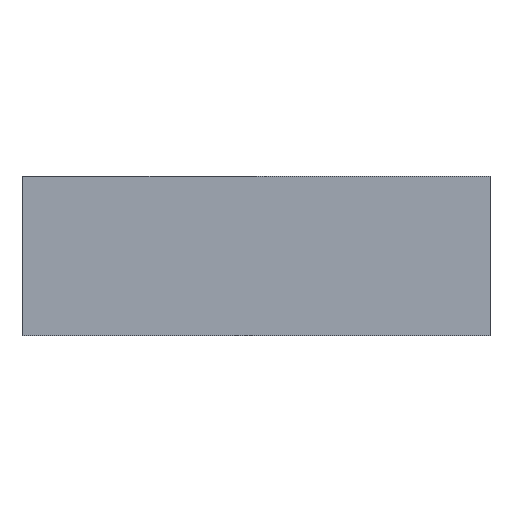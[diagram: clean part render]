
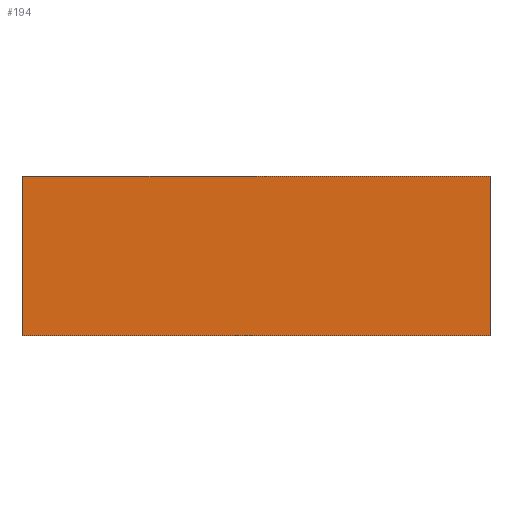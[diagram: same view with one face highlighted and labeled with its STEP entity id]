
A CAD part, front view. The second image highlights one B-rep face of the part: STEP entity #194.
In plain terms, the highlighted planar face has unit normal (0, -1, 0).
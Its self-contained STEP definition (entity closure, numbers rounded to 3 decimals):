
#1 = CARTESIAN_POINT ( 'NONE',  ( 176., 0., 120. ) ) ;
#8 = PLANE ( 'NONE',  #170 ) ;
#11 = VERTEX_POINT ( 'NONE', #79 ) ;
#21 = DIRECTION ( 'NONE',  ( 1., 0., 0. ) ) ;
#22 = CARTESIAN_POINT ( 'NONE',  ( -176., 0., 0. ) ) ;
#25 = DIRECTION ( 'NONE',  ( 0., 0., -1. ) ) ;
#26 = CARTESIAN_POINT ( 'NONE',  ( 176., 0., 120. ) ) ;
#52 = DIRECTION ( 'NONE',  ( 1., 0., 0. ) ) ;
#53 = CARTESIAN_POINT ( 'NONE',  ( -176., 0., 120. ) ) ;
#62 = DIRECTION ( 'NONE',  ( 0., 0., -1. ) ) ;
#65 = CARTESIAN_POINT ( 'NONE',  ( -176., 0., 120. ) ) ;
#70 = CARTESIAN_POINT ( 'NONE',  ( 176., 0., 0. ) ) ;
#75 = CARTESIAN_POINT ( 'NONE',  ( -176., 0., 120. ) ) ;
#79 = CARTESIAN_POINT ( 'NONE',  ( -176., 0., 0. ) ) ;
#82 = VERTEX_POINT ( 'NONE', #1 ) ;
#86 = VERTEX_POINT ( 'NONE', #75 ) ;
#103 = VERTEX_POINT ( 'NONE', #70 ) ;
#105 = CARTESIAN_POINT ( 'NONE',  ( -176., 0., 120. ) ) ;
#110 = DIRECTION ( 'NONE',  ( -1., 0., 0. ) ) ;
#120 = DIRECTION ( 'NONE',  ( 0., 1., 0. ) ) ;
#146 = EDGE_CURVE ( 'NONE', #86, #11, #223, .T. ) ;
#157 = EDGE_CURVE ( 'NONE', #86, #82, #249, .T. ) ;
#170 = AXIS2_PLACEMENT_3D ( 'NONE', #105, #120, #110 ) ;
#179 = EDGE_CURVE ( 'NONE', #82, #103, #336, .T. ) ;
#182 = EDGE_CURVE ( 'NONE', #11, #103, #272, .T. ) ;
#194 = ADVANCED_FACE ( 'NONE', ( #323 ), #8, .F. ) ;
#220 = ORIENTED_EDGE ( 'NONE', *, *, #157, .F. ) ;
#222 = EDGE_LOOP ( 'NONE', ( #231, #243, #220, #242 ) ) ;
#223 = LINE ( 'NONE', #65, #251 ) ;
#231 = ORIENTED_EDGE ( 'NONE', *, *, #182, .T. ) ;
#242 = ORIENTED_EDGE ( 'NONE', *, *, #146, .T. ) ;
#243 = ORIENTED_EDGE ( 'NONE', *, *, #179, .F. ) ;
#249 = LINE ( 'NONE', #53, #250 ) ;
#250 = VECTOR ( 'NONE', #52, 1000. ) ;
#251 = VECTOR ( 'NONE', #62, 1000. ) ;
#272 = LINE ( 'NONE', #22, #277 ) ;
#277 = VECTOR ( 'NONE', #21, 1000. ) ;
#315 = VECTOR ( 'NONE', #25, 1000. ) ;
#323 = FACE_OUTER_BOUND ( 'NONE', #222, .T. ) ;
#336 = LINE ( 'NONE', #26, #315 ) ;
